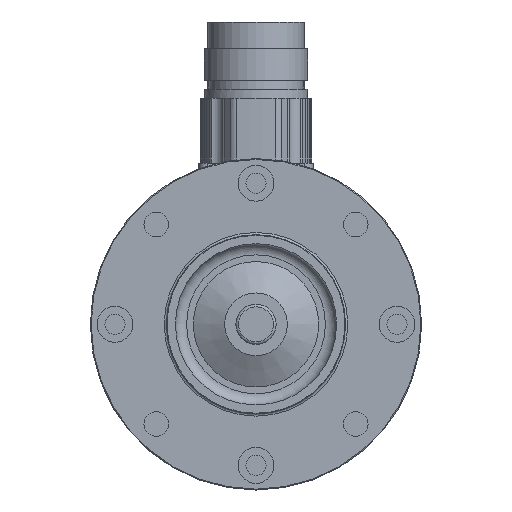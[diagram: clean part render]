
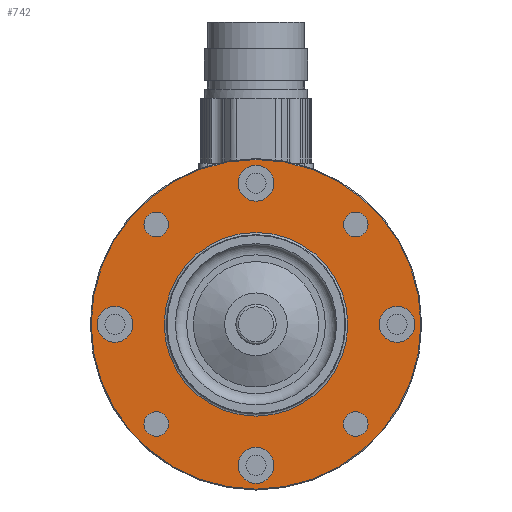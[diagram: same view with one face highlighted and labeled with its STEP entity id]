
A CAD part, front view. The second image highlights one B-rep face of the part: STEP entity #742.
In plain terms, the highlighted planar face has unit normal (0, -1, 0).
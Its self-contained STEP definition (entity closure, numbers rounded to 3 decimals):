
#364=PLANE('',#4512);
#462=FACE_BOUND('',#1389,.T.);
#463=FACE_BOUND('',#1390,.T.);
#464=FACE_BOUND('',#1391,.T.);
#465=FACE_BOUND('',#1392,.T.);
#466=FACE_BOUND('',#1393,.T.);
#467=FACE_BOUND('',#1394,.T.);
#468=FACE_BOUND('',#1395,.T.);
#469=FACE_BOUND('',#1396,.T.);
#470=FACE_BOUND('',#1398,.T.);
#742=ADVANCED_FACE('',(#462,#463,#464,#465,#466,#467,#468,#469,#1181,#470),
#364,.T.);
#1181=FACE_OUTER_BOUND('',#1397,.T.);
#1389=EDGE_LOOP('',(#2240));
#1390=EDGE_LOOP('',(#2241));
#1391=EDGE_LOOP('',(#2242));
#1392=EDGE_LOOP('',(#2243));
#1393=EDGE_LOOP('',(#2244));
#1394=EDGE_LOOP('',(#2245));
#1395=EDGE_LOOP('',(#2246));
#1396=EDGE_LOOP('',(#2247));
#1397=EDGE_LOOP('',(#2248));
#1398=EDGE_LOOP('',(#2249));
#1876=CIRCLE('',#4502,4.);
#1877=CIRCLE('',#4503,4.);
#1878=CIRCLE('',#4504,4.);
#1879=CIRCLE('',#4505,4.);
#1880=CIRCLE('',#4506,2.75);
#1881=CIRCLE('',#4507,2.75);
#1882=CIRCLE('',#4508,2.75);
#1883=CIRCLE('',#4509,2.75);
#1884=CIRCLE('',#4510,36.8);
#1885=CIRCLE('',#4511,20.5);
#2240=ORIENTED_EDGE('',*,*,#3665,.T.);
#2241=ORIENTED_EDGE('',*,*,#3666,.T.);
#2242=ORIENTED_EDGE('',*,*,#3667,.T.);
#2243=ORIENTED_EDGE('',*,*,#3668,.T.);
#2244=ORIENTED_EDGE('',*,*,#3669,.T.);
#2245=ORIENTED_EDGE('',*,*,#3670,.T.);
#2246=ORIENTED_EDGE('',*,*,#3671,.T.);
#2247=ORIENTED_EDGE('',*,*,#3672,.T.);
#2248=ORIENTED_EDGE('',*,*,#3673,.T.);
#2249=ORIENTED_EDGE('',*,*,#3674,.T.);
#3260=VERTEX_POINT('',#6650);
#3261=VERTEX_POINT('',#6652);
#3262=VERTEX_POINT('',#6654);
#3263=VERTEX_POINT('',#6656);
#3264=VERTEX_POINT('',#6658);
#3265=VERTEX_POINT('',#6660);
#3266=VERTEX_POINT('',#6662);
#3267=VERTEX_POINT('',#6664);
#3268=VERTEX_POINT('',#6666);
#3269=VERTEX_POINT('',#6668);
#3665=EDGE_CURVE('',#3260,#3260,#1876,.T.);
#3666=EDGE_CURVE('',#3261,#3261,#1877,.T.);
#3667=EDGE_CURVE('',#3262,#3262,#1878,.T.);
#3668=EDGE_CURVE('',#3263,#3263,#1879,.T.);
#3669=EDGE_CURVE('',#3264,#3264,#1880,.T.);
#3670=EDGE_CURVE('',#3265,#3265,#1881,.T.);
#3671=EDGE_CURVE('',#3266,#3266,#1882,.T.);
#3672=EDGE_CURVE('',#3267,#3267,#1883,.T.);
#3673=EDGE_CURVE('',#3268,#3268,#1884,.T.);
#3674=EDGE_CURVE('',#3269,#3269,#1885,.T.);
#4502=AXIS2_PLACEMENT_3D('',#6649,#5186,#5187);
#4503=AXIS2_PLACEMENT_3D('',#6651,#5188,#5189);
#4504=AXIS2_PLACEMENT_3D('',#6653,#5190,#5191);
#4505=AXIS2_PLACEMENT_3D('',#6655,#5192,#5193);
#4506=AXIS2_PLACEMENT_3D('',#6657,#5194,#5195);
#4507=AXIS2_PLACEMENT_3D('',#6659,#5196,#5197);
#4508=AXIS2_PLACEMENT_3D('',#6661,#5198,#5199);
#4509=AXIS2_PLACEMENT_3D('',#6663,#5200,#5201);
#4510=AXIS2_PLACEMENT_3D('',#6665,#5202,#5203);
#4511=AXIS2_PLACEMENT_3D('',#6667,#5204,#5205);
#4512=AXIS2_PLACEMENT_3D('',#6669,#5206,#5207);
#5186=DIRECTION('',(0.,1.,0.));
#5187=DIRECTION('',(-1.,0.,0.));
#5188=DIRECTION('',(0.,1.,0.));
#5189=DIRECTION('',(0.,0.,-1.));
#5190=DIRECTION('',(0.,1.,0.));
#5191=DIRECTION('',(1.,0.,0.));
#5192=DIRECTION('',(0.,1.,0.));
#5193=DIRECTION('',(0.,0.,1.));
#5194=DIRECTION('',(0.,1.,0.));
#5195=DIRECTION('',(-1.,0.,0.));
#5196=DIRECTION('',(0.,1.,0.));
#5197=DIRECTION('',(0.,0.,-1.));
#5198=DIRECTION('',(0.,1.,0.));
#5199=DIRECTION('',(1.,0.,0.));
#5200=DIRECTION('',(0.,1.,0.));
#5201=DIRECTION('',(0.,0.,1.));
#5202=DIRECTION('',(0.,-1.,0.));
#5203=DIRECTION('',(0.,0.,-1.));
#5204=DIRECTION('',(0.,1.,0.));
#5205=DIRECTION('',(0.,0.,-1.));
#5206=DIRECTION('',(0.,-1.,0.));
#5207=DIRECTION('',(0.,0.,-1.));
#6649=CARTESIAN_POINT('',(-31.5,0.,0.));
#6650=CARTESIAN_POINT('',(-35.5,0.,0.));
#6651=CARTESIAN_POINT('',(0.,0.,-31.5));
#6652=CARTESIAN_POINT('',(0.,0.,-35.5));
#6653=CARTESIAN_POINT('',(31.5,0.,0.));
#6654=CARTESIAN_POINT('',(35.5,0.,0.));
#6655=CARTESIAN_POINT('',(0.,0.,31.5));
#6656=CARTESIAN_POINT('',(0.,0.,35.5));
#6657=CARTESIAN_POINT('',(-22.274,0.,-22.274));
#6658=CARTESIAN_POINT('',(-25.024,0.,-22.274));
#6659=CARTESIAN_POINT('',(22.274,0.,-22.274));
#6660=CARTESIAN_POINT('',(22.274,0.,-25.024));
#6661=CARTESIAN_POINT('',(22.274,0.,22.274));
#6662=CARTESIAN_POINT('',(25.024,0.,22.274));
#6663=CARTESIAN_POINT('',(-22.274,0.,22.274));
#6664=CARTESIAN_POINT('',(-22.274,0.,25.024));
#6665=CARTESIAN_POINT('',(0.,0.,0.));
#6666=CARTESIAN_POINT('',(0.,0.,-36.8));
#6667=CARTESIAN_POINT('',(0.,0.,0.));
#6668=CARTESIAN_POINT('',(0.,0.,-20.5));
#6669=CARTESIAN_POINT('',(0.,0.,0.));
